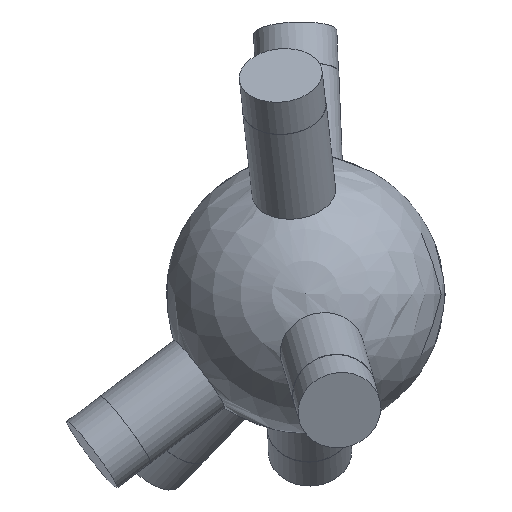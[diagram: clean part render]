
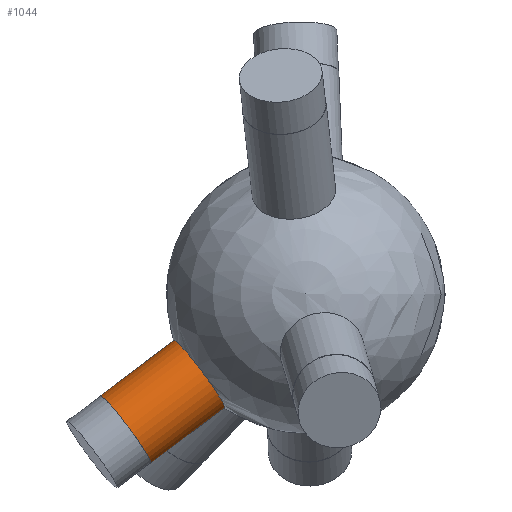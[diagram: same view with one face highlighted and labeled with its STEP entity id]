
A CAD part, top view. The second image highlights one B-rep face of the part: STEP entity #1044.
In plain terms, the highlighted cylindrical face has radius 6 mm (diameter 12 mm), a full revolution.
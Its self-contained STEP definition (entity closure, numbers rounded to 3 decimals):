
#35 = SPHERICAL_SURFACE('',#36,20.);
#36 = AXIS2_PLACEMENT_3D('',#37,#38,#39);
#37 = CARTESIAN_POINT('',(0.,0.,0.));
#38 = DIRECTION('',(0.,0.,1.));
#39 = DIRECTION('',(1.,0.,-0.));
#558 = EDGE_CURVE('',#559,#559,#561,.T.);
#559 = VERTEX_POINT('',#560);
#560 = CARTESIAN_POINT('',(-11.584,-16.215,
    1.698));
#561 = SURFACE_CURVE('',#562,(#567,#629),.PCURVE_S1.);
#562 = CIRCLE('',#563,6.);
#563 = AXIS2_PLACEMENT_3D('',#564,#565,#566);
#564 = CARTESIAN_POINT('',(-15.189,-11.419,
    1.698));
#565 = DIRECTION('',(-0.796,-0.599,0.089)
  );
#566 = DIRECTION('',(0.601,-0.799,0.)
  );
#567 = PCURVE('',#35,#568);
#568 = DEFINITIONAL_REPRESENTATION('',(#569),#628);
#569 = B_SPLINE_CURVE_WITH_KNOTS('',8,(#570,#571,#572,#573,#574,#575,
    #576,#577,#578,#579,#580,#581,#582,#583,#584,#585,#586,#587,#588,
    #589,#590,#591,#592,#593,#594,#595,#596,#597,#598,#599,#600,#601,
    #602,#603,#604,#605,#606,#607,#608,#609,#610,#611,#612,#613,#614,
    #615,#616,#617,#618,#619,#620,#621,#622,#623,#624,#625,#626,#627),
  .UNSPECIFIED.,.F.,.F.,(9,7,7,7,7,7,7,7,9),(0.,0.785,
    1.473,2.074,3.126,3.915,
    4.507,5.395,6.283),.UNSPECIFIED.);
#570 = CARTESIAN_POINT('',(4.092,0.085));
#571 = CARTESIAN_POINT('',(4.093,0.114));
#572 = CARTESIAN_POINT('',(4.091,0.144));
#573 = CARTESIAN_POINT('',(4.085,0.173));
#574 = CARTESIAN_POINT('',(4.076,0.202));
#575 = CARTESIAN_POINT('',(4.064,0.229));
#576 = CARTESIAN_POINT('',(4.049,0.255));
#577 = CARTESIAN_POINT('',(4.031,0.279));
#578 = CARTESIAN_POINT('',(3.992,0.32));
#579 = CARTESIAN_POINT('',(3.972,0.337));
#580 = CARTESIAN_POINT('',(3.949,0.352));
#581 = CARTESIAN_POINT('',(3.925,0.365));
#582 = CARTESIAN_POINT('',(3.9,0.376));
#583 = CARTESIAN_POINT('',(3.873,0.384));
#584 = CARTESIAN_POINT('',(3.846,0.39));
#585 = CARTESIAN_POINT('',(3.794,0.395));
#586 = CARTESIAN_POINT('',(3.769,0.395));
#587 = CARTESIAN_POINT('',(3.745,0.393));
#588 = CARTESIAN_POINT('',(3.721,0.389));
#589 = CARTESIAN_POINT('',(3.697,0.383));
#590 = CARTESIAN_POINT('',(3.674,0.375));
#591 = CARTESIAN_POINT('',(3.652,0.366));
#592 = CARTESIAN_POINT('',(3.595,0.334));
#593 = CARTESIAN_POINT('',(3.563,0.308));
#594 = CARTESIAN_POINT('',(3.535,0.278));
#595 = CARTESIAN_POINT('',(3.513,0.244));
#596 = CARTESIAN_POINT('',(3.496,0.207));
#597 = CARTESIAN_POINT('',(3.485,0.169));
#598 = CARTESIAN_POINT('',(3.48,0.129));
#599 = CARTESIAN_POINT('',(3.481,0.06));
#600 = CARTESIAN_POINT('',(3.484,0.03));
#601 = CARTESIAN_POINT('',(3.491,0.001));
#602 = CARTESIAN_POINT('',(3.501,-0.027));
#603 = CARTESIAN_POINT('',(3.514,-0.054));
#604 = CARTESIAN_POINT('',(3.529,-0.079));
#605 = CARTESIAN_POINT('',(3.548,-0.103));
#606 = CARTESIAN_POINT('',(3.584,-0.14));
#607 = CARTESIAN_POINT('',(3.601,-0.155));
#608 = CARTESIAN_POINT('',(3.619,-0.168));
#609 = CARTESIAN_POINT('',(3.638,-0.18));
#610 = CARTESIAN_POINT('',(3.659,-0.19));
#611 = CARTESIAN_POINT('',(3.68,-0.198));
#612 = CARTESIAN_POINT('',(3.702,-0.205));
#613 = CARTESIAN_POINT('',(3.757,-0.216));
#614 = CARTESIAN_POINT('',(3.791,-0.219));
#615 = CARTESIAN_POINT('',(3.826,-0.217));
#616 = CARTESIAN_POINT('',(3.86,-0.211));
#617 = CARTESIAN_POINT('',(3.893,-0.201));
#618 = CARTESIAN_POINT('',(3.924,-0.187));
#619 = CARTESIAN_POINT('',(3.953,-0.169));
#620 = CARTESIAN_POINT('',(4.005,-0.126));
#621 = CARTESIAN_POINT('',(4.028,-0.102));
#622 = CARTESIAN_POINT('',(4.048,-0.075));
#623 = CARTESIAN_POINT('',(4.065,-0.045));
#624 = CARTESIAN_POINT('',(4.077,-0.014));
#625 = CARTESIAN_POINT('',(4.086,0.019));
#626 = CARTESIAN_POINT('',(4.091,0.052));
#627 = CARTESIAN_POINT('',(4.092,0.085));
#628 = ( GEOMETRIC_REPRESENTATION_CONTEXT(2) 
PARAMETRIC_REPRESENTATION_CONTEXT() REPRESENTATION_CONTEXT('2D SPACE',''
  ) );
#629 = PCURVE('',#630,#635);
#630 = CYLINDRICAL_SURFACE('',#631,6.);
#631 = AXIS2_PLACEMENT_3D('',#632,#633,#634);
#632 = CARTESIAN_POINT('',(0.,0.,0.));
#633 = DIRECTION('',(-0.796,-0.599,0.089)
  );
#634 = DIRECTION('',(0.601,-0.799,0.)
  );
#635 = DEFINITIONAL_REPRESENTATION('',(#636),#640);
#636 = LINE('',#637,#638);
#637 = CARTESIAN_POINT('',(0.,19.079));
#638 = VECTOR('',#639,1.);
#639 = DIRECTION('',(1.,0.));
#640 = ( GEOMETRIC_REPRESENTATION_CONTEXT(2) 
PARAMETRIC_REPRESENTATION_CONTEXT() REPRESENTATION_CONTEXT('2D SPACE',''
  ) );
#1044 = ADVANCED_FACE('',(#1045),#630,.T.);
#1045 = FACE_BOUND('',#1046,.T.);
#1046 = EDGE_LOOP('',(#1047,#1070,#1097,#1098));
#1047 = ORIENTED_EDGE('',*,*,#1048,.T.);
#1048 = EDGE_CURVE('',#559,#1049,#1051,.T.);
#1049 = VERTEX_POINT('',#1050);
#1050 = CARTESIAN_POINT('',(-22.104,-24.125,
    2.874));
#1051 = SEAM_CURVE('',#1052,(#1056,#1063),.PCURVE_S1.);
#1052 = LINE('',#1053,#1054);
#1053 = CARTESIAN_POINT('',(3.606,-4.796,
    0.));
#1054 = VECTOR('',#1055,1.);
#1055 = DIRECTION('',(-0.796,-0.599,0.089
    ));
#1056 = PCURVE('',#630,#1057);
#1057 = DEFINITIONAL_REPRESENTATION('',(#1058),#1062);
#1058 = LINE('',#1059,#1060);
#1059 = CARTESIAN_POINT('',(6.283,-0.));
#1060 = VECTOR('',#1061,1.);
#1061 = DIRECTION('',(0.,1.));
#1062 = ( GEOMETRIC_REPRESENTATION_CONTEXT(2) 
PARAMETRIC_REPRESENTATION_CONTEXT() REPRESENTATION_CONTEXT('2D SPACE',''
  ) );
#1063 = PCURVE('',#630,#1064);
#1064 = DEFINITIONAL_REPRESENTATION('',(#1065),#1069);
#1065 = LINE('',#1066,#1067);
#1066 = CARTESIAN_POINT('',(0.,-0.));
#1067 = VECTOR('',#1068,1.);
#1068 = DIRECTION('',(0.,1.));
#1069 = ( GEOMETRIC_REPRESENTATION_CONTEXT(2) 
PARAMETRIC_REPRESENTATION_CONTEXT() REPRESENTATION_CONTEXT('2D SPACE',''
  ) );
#1070 = ORIENTED_EDGE('',*,*,#1071,.F.);
#1071 = EDGE_CURVE('',#1049,#1049,#1072,.T.);
#1072 = SURFACE_CURVE('',#1073,(#1078,#1085),.PCURVE_S1.);
#1073 = CIRCLE('',#1074,6.);
#1074 = AXIS2_PLACEMENT_3D('',#1075,#1076,#1077);
#1075 = CARTESIAN_POINT('',(-25.71,-19.329,
    2.874));
#1076 = DIRECTION('',(-0.796,-0.599,0.089
    ));
#1077 = DIRECTION('',(0.601,-0.799,0.)
  );
#1078 = PCURVE('',#630,#1079);
#1079 = DEFINITIONAL_REPRESENTATION('',(#1080),#1084);
#1080 = LINE('',#1081,#1082);
#1081 = CARTESIAN_POINT('',(0.,32.293));
#1082 = VECTOR('',#1083,1.);
#1083 = DIRECTION('',(1.,0.));
#1084 = ( GEOMETRIC_REPRESENTATION_CONTEXT(2) 
PARAMETRIC_REPRESENTATION_CONTEXT() REPRESENTATION_CONTEXT('2D SPACE',''
  ) );
#1085 = PCURVE('',#1086,#1091);
#1086 = PLANE('',#1087);
#1087 = AXIS2_PLACEMENT_3D('',#1088,#1089,#1090);
#1088 = CARTESIAN_POINT('',(-25.71,-19.329,
    2.874));
#1089 = DIRECTION('',(-0.796,-0.599,0.089
    ));
#1090 = DIRECTION('',(0.601,-0.799,0.)
  );
#1091 = DEFINITIONAL_REPRESENTATION('',(#1092),#1096);
#1092 = CIRCLE('',#1093,6.);
#1093 = AXIS2_PLACEMENT_2D('',#1094,#1095);
#1094 = CARTESIAN_POINT('',(0.,0.));
#1095 = DIRECTION('',(1.,0.));
#1096 = ( GEOMETRIC_REPRESENTATION_CONTEXT(2) 
PARAMETRIC_REPRESENTATION_CONTEXT() REPRESENTATION_CONTEXT('2D SPACE',''
  ) );
#1097 = ORIENTED_EDGE('',*,*,#1048,.F.);
#1098 = ORIENTED_EDGE('',*,*,#558,.T.);
